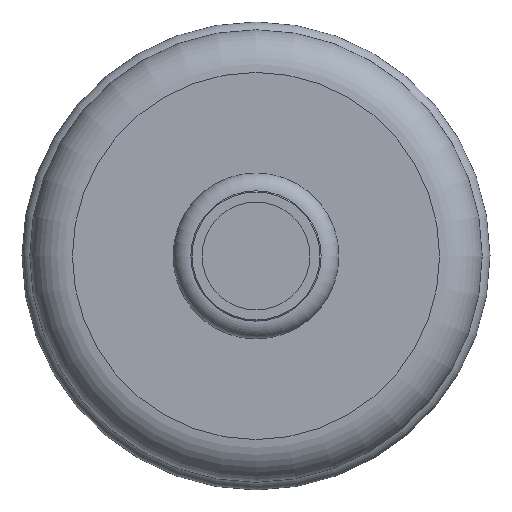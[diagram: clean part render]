
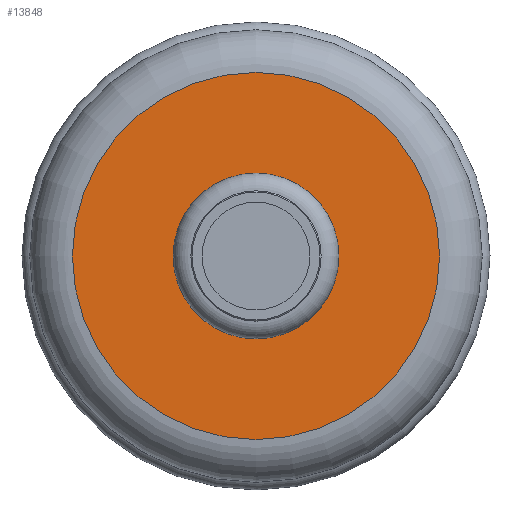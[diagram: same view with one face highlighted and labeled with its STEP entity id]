
A CAD part, front view. The second image highlights one B-rep face of the part: STEP entity #13848.
In plain terms, the highlighted planar face has unit normal (0, -1, 0).
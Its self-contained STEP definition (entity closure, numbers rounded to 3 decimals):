
#3809=FACE_BOUND('',#5341,.T.);
#4541=FACE_OUTER_BOUND('',#5340,.T.);
#5340=EDGE_LOOP('',(#12612));
#5341=EDGE_LOOP('',(#12613));
#5348=CIRCLE('',#14363,14.);
#5361=CIRCLE('',#14392,31.);
#6672=VERTEX_POINT('',#24188);
#6685=VERTEX_POINT('',#24230);
#8648=EDGE_CURVE('',#6672,#6672,#5348,.T.);
#8661=EDGE_CURVE('',#6685,#6685,#5361,.T.);
#12612=ORIENTED_EDGE('',*,*,#8661,.T.);
#12613=ORIENTED_EDGE('',*,*,#8648,.T.);
#13121=PLANE('',#14393);
#13848=ADVANCED_FACE('',(#4541,#3809),#13121,.T.);
#14363=AXIS2_PLACEMENT_3D('',#24189,#16970,#16971);
#14392=AXIS2_PLACEMENT_3D('',#24231,#17028,#17029);
#14393=AXIS2_PLACEMENT_3D('',#24232,#17030,#17031);
#16970=DIRECTION('center_axis',(0.,1.,0.));
#16971=DIRECTION('ref_axis',(0.,0.,1.));
#17028=DIRECTION('center_axis',(0.,-1.,0.));
#17029=DIRECTION('ref_axis',(-1.,0.,0.));
#17030=DIRECTION('center_axis',(0.,-1.,0.));
#17031=DIRECTION('ref_axis',(0.,0.,-1.));
#24188=CARTESIAN_POINT('',(0.,-13.803,14.));
#24189=CARTESIAN_POINT('Origin',(0.,-13.803,
0.));
#24230=CARTESIAN_POINT('',(-31.,-13.803,0.));
#24231=CARTESIAN_POINT('Origin',(0.,-13.803,
0.));
#24232=CARTESIAN_POINT('Origin',(-20.525,-13.803,0.));
